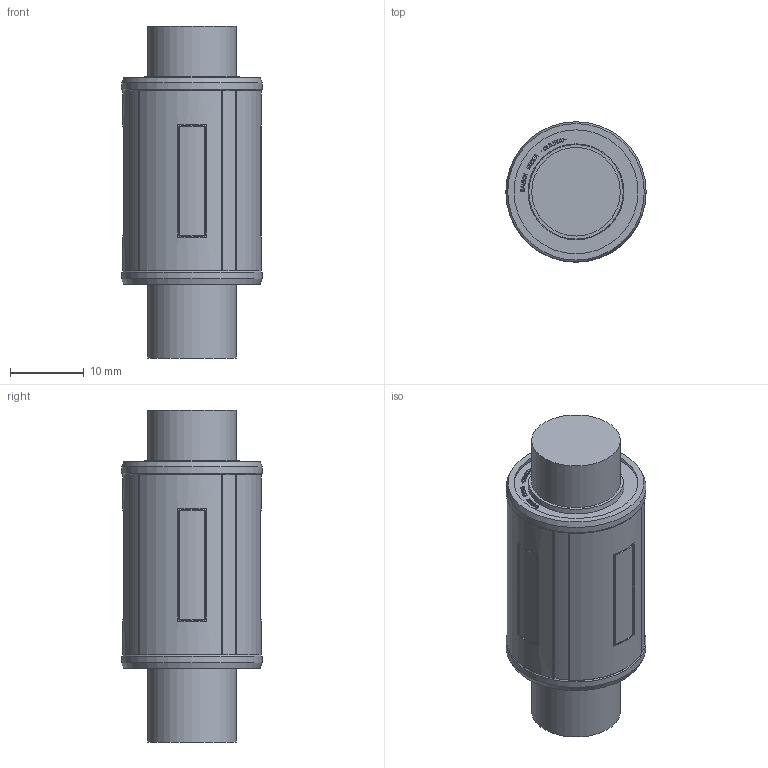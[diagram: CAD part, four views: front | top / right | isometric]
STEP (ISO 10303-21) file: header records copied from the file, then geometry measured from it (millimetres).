
FILE_DESCRIPTION(/* description */ (''),/* implementation_level */ '2;1');
FILE_NAME(/* name */ 'C:\Users\조경제\OneDrive - mysamick.com\바탕 화면\STP\STP_rev1\CLB12UU.stp',/* time_stamp */ '2025-02-05T13:47:24+09:00',/* author */ ('조경제'),/* organization */ (''),/* preprocessor_version */ 'ST-DEVELOPER v17',/* originating_system */ 'Autodesk Inventor 2019',/* authorisation */ '');
FILE_SCHEMA (('AUTOMOTIVE_DESIGN { 1 0 10303 214 3 1 1 }'));
Length unit declared in the file: millimetre
Products named in the file (1): CLB12UU
Bounding box: 19 x 19 x 45 mm (x, y, z)
Volume: 9562.9 mm3; surface area: 3168.7 mm2
Topology: 1 solids, 1 shells, 1054 faces, 2914 edges, 1930 vertices
Faces by surface type: bspline 688, plane 308, cylinder 40, torus 10, cone 8
Full cylindrical faces by diameter (mm): 12 x2, 17 x2, 17.1 x2, 19 x2
Entity records: 36753 total; most frequent: CARTESIAN_POINT 13353, ORIENTED_EDGE 5828, EDGE_CURVE 2914, DIRECTION 2440, VERTEX_POINT 1930, LINE 1386, VECTOR 1386, B_SPLINE_CURVE_WITH_KNOTS 1368
